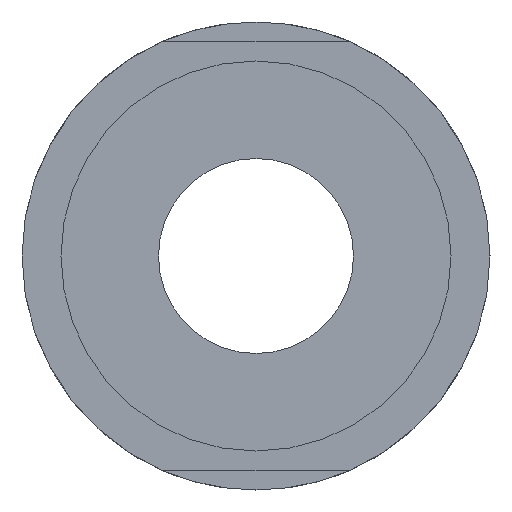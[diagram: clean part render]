
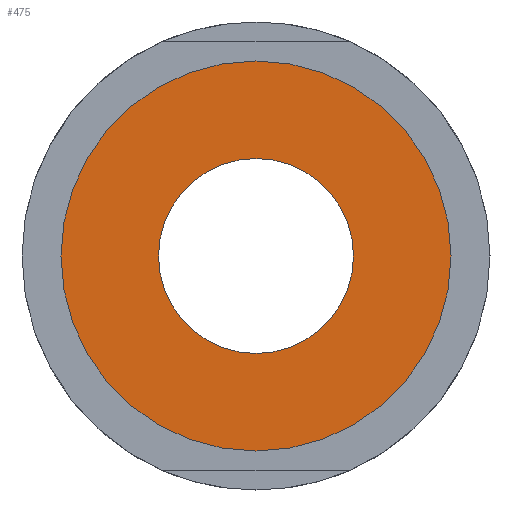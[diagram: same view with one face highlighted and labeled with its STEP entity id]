
A CAD part, left-side view. The second image highlights one B-rep face of the part: STEP entity #475.
In plain terms, the highlighted planar face has unit normal (-1, 0, 0).
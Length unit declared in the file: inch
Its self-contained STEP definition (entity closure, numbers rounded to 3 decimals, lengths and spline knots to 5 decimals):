
#5 = AXIS2_PLACEMENT_3D ( 'NONE', #67, #65, #63 ) ;
#63 = DIRECTION ( 'NONE',  ( 0., 0., -1. ) ) ;
#65 = DIRECTION ( 'NONE',  ( 1., 0., 0. ) ) ;
#67 = CARTESIAN_POINT ( 'NONE',  ( -2.035, 0., 0. ) ) ;
#75 = CARTESIAN_POINT ( 'NONE',  ( -2.035, 0., -0.3125 ) ) ;
#131 = DIRECTION ( 'NONE',  ( 0., 0., -1. ) ) ;
#132 = DIRECTION ( 'NONE',  ( 1., 0., 0. ) ) ;
#133 = CARTESIAN_POINT ( 'NONE',  ( -2.035, 0., 0. ) ) ;
#134 = CARTESIAN_POINT ( 'NONE',  ( -2.035, 0., 0.625 ) ) ;
#144 = CARTESIAN_POINT ( 'NONE',  ( -2.035, 0., 0.3125 ) ) ;
#164 = CARTESIAN_POINT ( 'NONE',  ( -2.035, 0., -0.625 ) ) ;
#169 = DIRECTION ( 'NONE',  ( 0., 0., -1. ) ) ;
#170 = DIRECTION ( 'NONE',  ( 1., 0., 0. ) ) ;
#173 = CARTESIAN_POINT ( 'NONE',  ( -2.035, 0., 0. ) ) ;
#185 = CARTESIAN_POINT ( 'NONE',  ( -2.035, 0.625, 0. ) ) ;
#186 = DIRECTION ( 'NONE',  ( 0., 0., 1. ) ) ;
#189 = DIRECTION ( 'NONE',  ( -1., 0., 0. ) ) ;
#205 = DIRECTION ( 'NONE',  ( 0., 0., -1. ) ) ;
#206 = DIRECTION ( 'NONE',  ( 1., 0., 0. ) ) ;
#210 = CARTESIAN_POINT ( 'NONE',  ( -2.035, 0., 0. ) ) ;
#245 = PLANE ( 'NONE',  #557 ) ;
#250 = CIRCLE ( 'NONE', #568, 0.3125 ) ;
#273 = CIRCLE ( 'NONE', #549, 0.3125 ) ;
#280 = EDGE_LOOP ( 'NONE', ( #421, #427 ) ) ;
#284 = VERTEX_POINT ( 'NONE', #164 ) ;
#297 = VERTEX_POINT ( 'NONE', #144 ) ;
#310 = CIRCLE ( 'NONE', #563, 0.625 ) ;
#327 = VERTEX_POINT ( 'NONE', #75 ) ;
#419 = ORIENTED_EDGE ( 'NONE', *, *, #490, .F. ) ;
#421 = ORIENTED_EDGE ( 'NONE', *, *, #508, .T. ) ;
#422 = ORIENTED_EDGE ( 'NONE', *, *, #571, .F. ) ;
#425 = CIRCLE ( 'NONE', #5, 0.625 ) ;
#427 = ORIENTED_EDGE ( 'NONE', *, *, #536, .T. ) ;
#435 = FACE_BOUND ( 'NONE', #280, .T. ) ;
#444 = FACE_OUTER_BOUND ( 'NONE', #461, .T. ) ;
#461 = EDGE_LOOP ( 'NONE', ( #419, #422 ) ) ;
#464 = VERTEX_POINT ( 'NONE', #134 ) ;
#475 = ADVANCED_FACE ( 'NONE', ( #435, #444 ), #245, .T. ) ;
#490 = EDGE_CURVE ( 'NONE', #284, #464, #310, .T. ) ;
#508 = EDGE_CURVE ( 'NONE', #327, #297, #273, .T. ) ;
#536 = EDGE_CURVE ( 'NONE', #297, #327, #250, .T. ) ;
#549 = AXIS2_PLACEMENT_3D ( 'NONE', #173, #170, #169 ) ;
#557 = AXIS2_PLACEMENT_3D ( 'NONE', #185, #189, #186 ) ;
#563 = AXIS2_PLACEMENT_3D ( 'NONE', #210, #206, #205 ) ;
#568 = AXIS2_PLACEMENT_3D ( 'NONE', #133, #132, #131 ) ;
#571 = EDGE_CURVE ( 'NONE', #464, #284, #425, .T. ) ;
